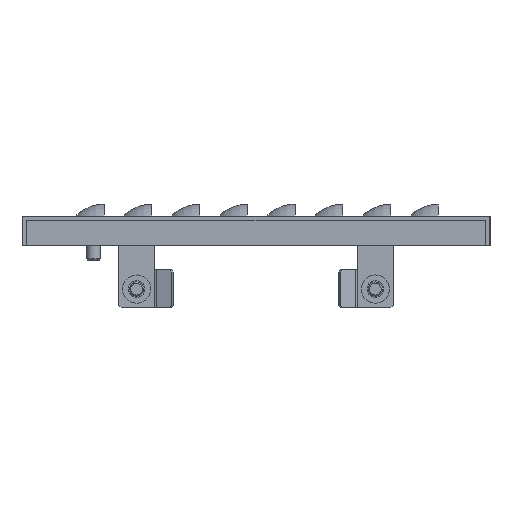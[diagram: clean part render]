
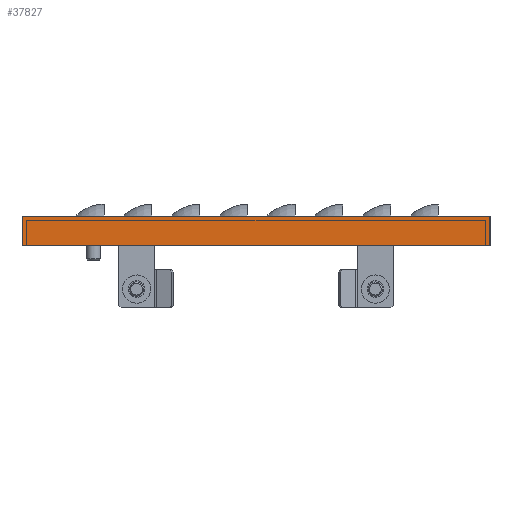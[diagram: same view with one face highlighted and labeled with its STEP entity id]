
A CAD part, left-side view. The second image highlights one B-rep face of the part: STEP entity #37827.
In plain terms, the highlighted planar face has unit normal (-1, 0, 0).
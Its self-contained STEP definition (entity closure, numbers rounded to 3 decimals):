
#715 = CARTESIAN_POINT ( 'NONE',  ( -595., -196., 2.928 ) ) ;
#2506 = VECTOR ( 'NONE', #28545, 1000. ) ;
#3196 = EDGE_LOOP ( 'NONE', ( #29033, #20063, #18153, #14215 ) ) ;
#4812 = VECTOR ( 'NONE', #8859, 1000. ) ;
#5219 = CARTESIAN_POINT ( 'NONE',  ( -595., 0., 2.928 ) ) ;
#6882 = DIRECTION ( 'NONE',  ( 0., -1., 0. ) ) ;
#8604 = EDGE_CURVE ( 'NONE', #11172, #14818, #28750, .T. ) ;
#8814 = CARTESIAN_POINT ( 'NONE',  ( -595., -196., 0. ) ) ;
#8859 = DIRECTION ( 'NONE',  ( 0., 1., 0. ) ) ;
#9265 = LINE ( 'NONE', #32987, #4812 ) ;
#9474 = VERTEX_POINT ( 'NONE', #17163 ) ;
#9530 = PLANE ( 'NONE',  #14464 ) ;
#10349 = VECTOR ( 'NONE', #6882, 1000. ) ;
#10724 = EDGE_CURVE ( 'NONE', #11172, #33335, #9265, .T. ) ;
#11164 = DIRECTION ( 'NONE',  ( 0., 0., -1. ) ) ;
#11172 = VERTEX_POINT ( 'NONE', #8814 ) ;
#14215 = ORIENTED_EDGE ( 'NONE', *, *, #8604, .F. ) ;
#14464 = AXIS2_PLACEMENT_3D ( 'NONE', #21227, #33287, #18249 ) ;
#14818 = VERTEX_POINT ( 'NONE', #28058 ) ;
#16811 = CARTESIAN_POINT ( 'NONE',  ( -595., 0., 0. ) ) ;
#17163 = CARTESIAN_POINT ( 'NONE',  ( -595., 0., -12.5 ) ) ;
#18153 = ORIENTED_EDGE ( 'NONE', *, *, #24982, .T. ) ;
#18249 = DIRECTION ( 'NONE',  ( 0., 1., 0. ) ) ;
#20063 = ORIENTED_EDGE ( 'NONE', *, *, #21551, .T. ) ;
#21227 = CARTESIAN_POINT ( 'NONE',  ( -595., -98., -2. ) ) ;
#21551 = EDGE_CURVE ( 'NONE', #33335, #9474, #32322, .T. ) ;
#24196 = FACE_OUTER_BOUND ( 'NONE', #3196, .T. ) ;
#24915 = LINE ( 'NONE', #33995, #10349 ) ;
#24982 = EDGE_CURVE ( 'NONE', #9474, #14818, #24915, .T. ) ;
#26610 = VECTOR ( 'NONE', #11164, 1000. ) ;
#28058 = CARTESIAN_POINT ( 'NONE',  ( -595., -196., -12.5 ) ) ;
#28545 = DIRECTION ( 'NONE',  ( 0., 0., -1. ) ) ;
#28750 = LINE ( 'NONE', #715, #2506 ) ;
#29033 = ORIENTED_EDGE ( 'NONE', *, *, #10724, .T. ) ;
#32322 = LINE ( 'NONE', #5219, #26610 ) ;
#32987 = CARTESIAN_POINT ( 'NONE',  ( -595., -98., 0. ) ) ;
#33287 = DIRECTION ( 'NONE',  ( 1., 0., 0. ) ) ;
#33335 = VERTEX_POINT ( 'NONE', #16811 ) ;
#33995 = CARTESIAN_POINT ( 'NONE',  ( -595., -98., -12.5 ) ) ;
#37827 = ADVANCED_FACE ( 'NONE', ( #24196 ), #9530, .F. ) ;
